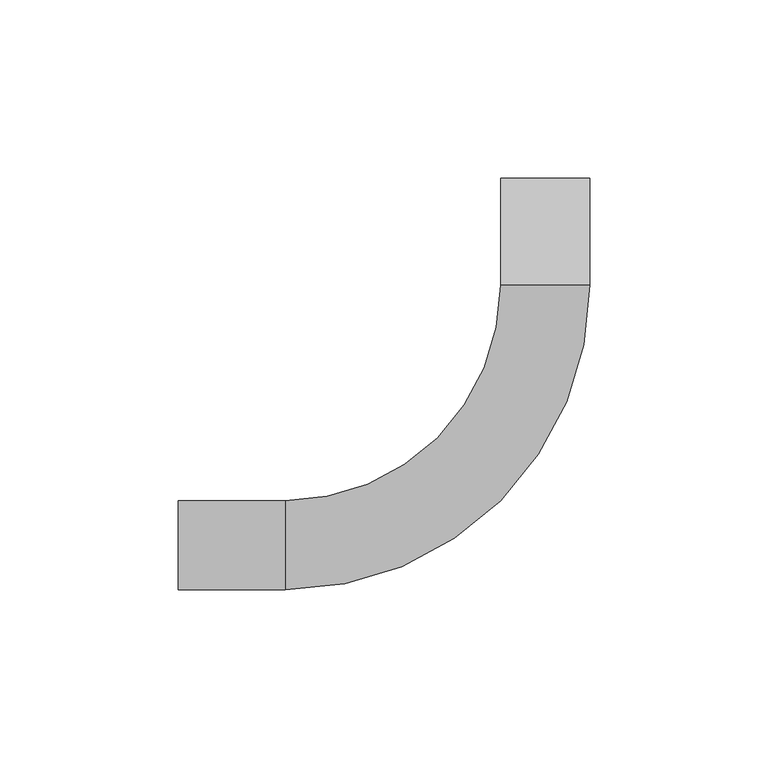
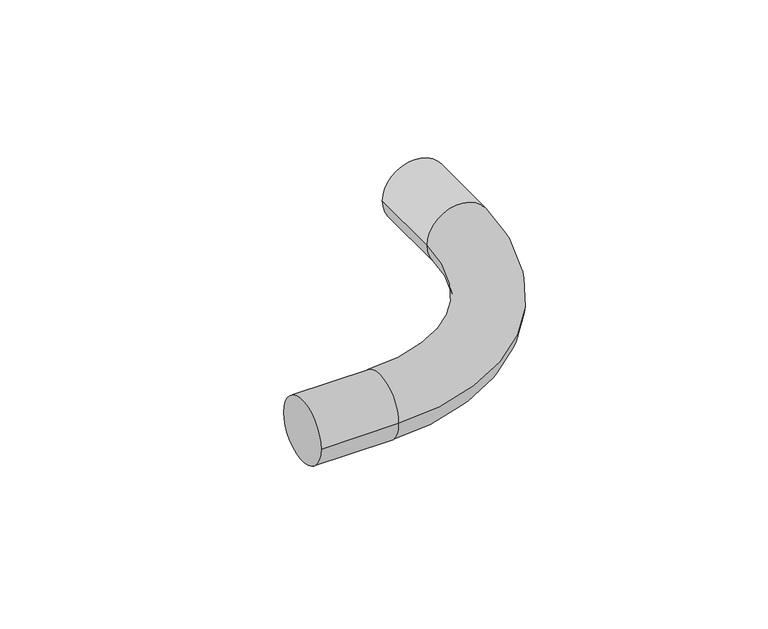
"""IFC4 building model written with IfcOpenShell, lengths in millimetres: cable carrier fitting geometry, Отвод Трубы гладкие жесткие ПВХ : Отвод Трубы гладкие жесткие ПВХ."""

from ifc_helpers import new_model, si_unit, point, frame, origin, place, context, project, spatial, circle_curve, ellipse_curve, trimmed, source, transform, mapped, element, save
from ifc_brep_helpers import plane_surface, cylinder_surface, revolved_surface, advanced_brep


def cable_carrier_fitting_60fb8931(model_context):
    return source(origin(), model_context, "Body", "AdvancedBrep", [
        advanced_brep(
        [(-102.8954, -12.4968, 0.0), (-102.8954, 12.4968, 0.0), (-72.898, -12.4968, 0.0), (-72.898, 12.4968, 0.0), (-12.4968, 72.898, 0.0), (12.4968, 72.898, 0.0), (12.4968, 102.8954, 0.0), (-12.4968, 102.8954, 0.0)],
        [
            (0, 1, circle_curve(frame((-102.8954, 0.0, 0.0), z_axis=(-1.0, 0.0, 0.0), x_axis=(0.0, 1.0, 0.0)), 12.4968)),
            (1, 0, circle_curve(frame((-102.8954, 0.0, 0.0), z_axis=(-1.0, 0.0, 0.0), x_axis=(0.0, 1.0, 0.0)), 12.4968)),
            (0, 2),
            (2, 3, circle_curve(frame((-72.898, 0.0, 0.0), z_axis=(-1.0, 0.0, 0.0), x_axis=(0.0, 1.0, 0.0)), 12.4968)),
            (3, 1),
            (3, 2, circle_curve(frame((-72.898, 0.0, 0.0), z_axis=(-1.0, 0.0, 0.0), x_axis=(0.0, 1.0, 0.0)), 12.4968)),
            (4, 3, circle_curve(frame((-72.898, 72.898, 0.0), z_axis=(0.0, 0.0, -1.0), x_axis=(0.0, -1.0, 0.0)), 60.4012)),
            (2, 5, circle_curve(frame((-72.898, 72.898, 0.0), z_axis=(0.0, 0.0, 1.0), x_axis=(0.0, -1.0, 0.0)), 85.3948)),
            (5, 4, circle_curve(frame((0.0, 72.898, 0.0), z_axis=(0.0, -1.0, 0.0), x_axis=(-1.0, 0.0, 0.0)), 12.4968)),
            (4, 5, circle_curve(frame((0.0, 72.898, 0.0), z_axis=(0.0, -1.0, 0.0), x_axis=(-1.0, 0.0, 0.0)), 12.4968)),
            (6, 7, circle_curve(frame((0.0, 102.8954, 0.0), z_axis=(0.0, 1.0, 0.0), x_axis=(-1.0, 0.0, 0.0)), 12.4968)),
            (7, 6, circle_curve(frame((0.0, 102.8954, 0.0), z_axis=(0.0, 1.0, 0.0), x_axis=(-1.0, 0.0, 0.0)), 12.4968)),
            (5, 6),
            (7, 4),
        ],
        [
            plane_surface(frame((-102.8954, 0.0, 0.0), z_axis=(-1.0, 0.0, 0.0), x_axis=(0.0, 0.0, 1.0))),
            cylinder_surface(frame((-102.8954, 0.0, 0.0), z_axis=(-1.0, 0.0, 0.0), x_axis=(0.0, 1.0, 0.0)), 12.4968),
            revolved_surface(trimmed(ellipse_curve(frame((-72.898, 0.0, 0.0), z_axis=(-1.0, 0.0, 0.0), x_axis=(0.0, 1.0, 0.0)), 12.4968, 12.4968), [point((-72.898, -12.4968, 0.0))], [point((-72.898, 12.4968, 0.0))], True, "CARTESIAN"), (-72.898, 72.898, 0.0), (0.0, 0.0, 1.0)),
            revolved_surface(trimmed(ellipse_curve(frame((-72.898, 0.0, 0.0), z_axis=(-1.0, 0.0, 0.0), x_axis=(0.0, 1.0, 0.0)), 12.4968, 12.4968), [point((-72.898, 12.4968, 0.0))], [point((-72.898, -12.4968, 0.0))], True, "CARTESIAN"), (-72.898, 72.898, 0.0), (0.0, 0.0, 1.0)),
            plane_surface(frame((0.0, 102.8954, 0.0), z_axis=(0.0, 1.0, 0.0), x_axis=(0.0, 0.0, 1.0))),
            cylinder_surface(frame((0.0, 72.898, 0.0), z_axis=(0.0, -1.0, 0.0), x_axis=(-1.0, 0.0, 0.0)), 12.4968),
        ],
        [
            (0, [[1, 2]]),
            (1, [[-1, 3, 4, 5]]),
            (1, [[-2, -5, 6, -3]]),
            (2, [[7, -4, 8, 9]]),
            (3, [[-8, -6, -7, 10]]),
            (4, [[11, 12]]),
            (5, [[-9, 13, -12, 14]]),
            (5, [[-10, -14, -11, -13]]),
        ],
    ),
    ])


if __name__ == "__main__":
    model = new_model("IFC4")
    model_context = context("Model", 3, world=origin())
    ifc_project = project(units=[si_unit("LENGTHUNIT", "METRE", prefix="MILLI")], contexts=[model_context])
    site = spatial("IfcSite", under=ifc_project)
    building = spatial("IfcBuilding", under=site)
    placement = place(None, origin())
    cable_carrier_fitting_shape = cable_carrier_fitting_60fb8931(model_context)
    element("IfcCableCarrierFitting", 1, ObjectType="Отвод Трубы гладкие жесткие ПВХ : Отвод Трубы гладкие жесткие ПВХ", at=placement, inside=building, context=model_context, shape_type="MappedRepresentation", body=[
        mapped(cable_carrier_fitting_shape, transform((0.0, 0.0, 0.0), x_axis=(1.0, 0.0, 0.0), y_axis=(0.0, 1.0, 0.0), z_axis=(0.0, 0.0, 1.0))),
    ])
    save(model, "model.ifc")
